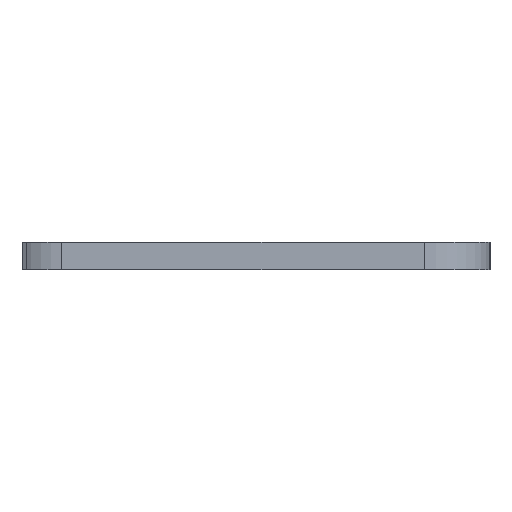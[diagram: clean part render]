
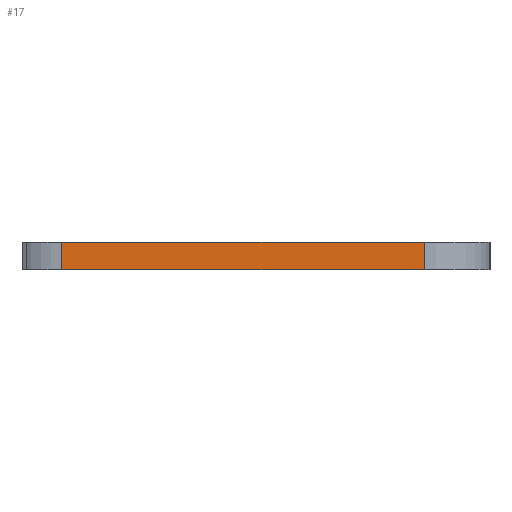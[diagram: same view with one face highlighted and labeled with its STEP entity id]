
A CAD part, left-side view. The second image highlights one B-rep face of the part: STEP entity #17.
In plain terms, the highlighted planar face has unit normal (-1, 0, 0).
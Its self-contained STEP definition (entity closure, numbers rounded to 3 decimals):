
#17 = ADVANCED_FACE('',(#18),#32,.F.);
#18 = FACE_BOUND('',#19,.F.);
#19 = EDGE_LOOP('',(#20,#55,#83,#111));
#20 = ORIENTED_EDGE('',*,*,#21,.F.);
#21 = EDGE_CURVE('',#22,#24,#26,.T.);
#22 = VERTEX_POINT('',#23);
#23 = CARTESIAN_POINT('',(-0.05,5.95,65.7));
#24 = VERTEX_POINT('',#25);
#25 = CARTESIAN_POINT('',(-0.05,39.,65.7));
#26 = SURFACE_CURVE('',#27,(#31,#43),.PCURVE_S1.);
#27 = LINE('',#28,#29);
#28 = CARTESIAN_POINT('',(-0.05,-0.05,65.7));
#29 = VECTOR('',#30,1.);
#30 = DIRECTION('',(0.,1.,0.));
#31 = PCURVE('',#32,#37);
#32 = PLANE('',#33);
#33 = AXIS2_PLACEMENT_3D('',#34,#35,#36);
#34 = CARTESIAN_POINT('',(-0.05,-0.05,63.2));
#35 = DIRECTION('',(1.,0.,0.));
#36 = DIRECTION('',(0.,0.,1.));
#37 = DEFINITIONAL_REPRESENTATION('',(#38),#42);
#38 = LINE('',#39,#40);
#39 = CARTESIAN_POINT('',(2.5,0.));
#40 = VECTOR('',#41,1.);
#41 = DIRECTION('',(0.,-1.));
#42 = ( GEOMETRIC_REPRESENTATION_CONTEXT(2) 
PARAMETRIC_REPRESENTATION_CONTEXT() REPRESENTATION_CONTEXT('2D SPACE',''
  ) );
#43 = PCURVE('',#44,#49);
#44 = PLANE('',#45);
#45 = AXIS2_PLACEMENT_3D('',#46,#47,#48);
#46 = CARTESIAN_POINT('',(-0.05,-0.05,65.7));
#47 = DIRECTION('',(0.,0.,1.));
#48 = DIRECTION('',(1.,0.,0.));
#49 = DEFINITIONAL_REPRESENTATION('',(#50),#54);
#50 = LINE('',#51,#52);
#51 = CARTESIAN_POINT('',(0.,0.));
#52 = VECTOR('',#53,1.);
#53 = DIRECTION('',(0.,1.));
#54 = ( GEOMETRIC_REPRESENTATION_CONTEXT(2) 
PARAMETRIC_REPRESENTATION_CONTEXT() REPRESENTATION_CONTEXT('2D SPACE',''
  ) );
#55 = ORIENTED_EDGE('',*,*,#56,.F.);
#56 = EDGE_CURVE('',#57,#22,#59,.T.);
#57 = VERTEX_POINT('',#58);
#58 = CARTESIAN_POINT('',(-0.05,5.95,63.2));
#59 = SURFACE_CURVE('',#60,(#64,#71),.PCURVE_S1.);
#60 = LINE('',#61,#62);
#61 = CARTESIAN_POINT('',(-0.05,5.95,63.2));
#62 = VECTOR('',#63,1.);
#63 = DIRECTION('',(0.,0.,1.));
#64 = PCURVE('',#32,#65);
#65 = DEFINITIONAL_REPRESENTATION('',(#66),#70);
#66 = LINE('',#67,#68);
#67 = CARTESIAN_POINT('',(0.,-6.));
#68 = VECTOR('',#69,1.);
#69 = DIRECTION('',(1.,0.));
#70 = ( GEOMETRIC_REPRESENTATION_CONTEXT(2) 
PARAMETRIC_REPRESENTATION_CONTEXT() REPRESENTATION_CONTEXT('2D SPACE',''
  ) );
#71 = PCURVE('',#72,#77);
#72 = CYLINDRICAL_SURFACE('',#73,6.);
#73 = AXIS2_PLACEMENT_3D('',#74,#75,#76);
#74 = CARTESIAN_POINT('',(5.95,5.95,63.2));
#75 = DIRECTION('',(0.,0.,1.));
#76 = DIRECTION('',(-1.,-0.,0.));
#77 = DEFINITIONAL_REPRESENTATION('',(#78),#82);
#78 = LINE('',#79,#80);
#79 = CARTESIAN_POINT('',(0.,0.));
#80 = VECTOR('',#81,1.);
#81 = DIRECTION('',(0.,1.));
#82 = ( GEOMETRIC_REPRESENTATION_CONTEXT(2) 
PARAMETRIC_REPRESENTATION_CONTEXT() REPRESENTATION_CONTEXT('2D SPACE',''
  ) );
#83 = ORIENTED_EDGE('',*,*,#84,.T.);
#84 = EDGE_CURVE('',#57,#85,#87,.T.);
#85 = VERTEX_POINT('',#86);
#86 = CARTESIAN_POINT('',(-0.05,39.,63.2));
#87 = SURFACE_CURVE('',#88,(#92,#99),.PCURVE_S1.);
#88 = LINE('',#89,#90);
#89 = CARTESIAN_POINT('',(-0.05,-0.05,63.2));
#90 = VECTOR('',#91,1.);
#91 = DIRECTION('',(0.,1.,0.));
#92 = PCURVE('',#32,#93);
#93 = DEFINITIONAL_REPRESENTATION('',(#94),#98);
#94 = LINE('',#95,#96);
#95 = CARTESIAN_POINT('',(0.,0.));
#96 = VECTOR('',#97,1.);
#97 = DIRECTION('',(0.,-1.));
#98 = ( GEOMETRIC_REPRESENTATION_CONTEXT(2) 
PARAMETRIC_REPRESENTATION_CONTEXT() REPRESENTATION_CONTEXT('2D SPACE',''
  ) );
#99 = PCURVE('',#100,#105);
#100 = PLANE('',#101);
#101 = AXIS2_PLACEMENT_3D('',#102,#103,#104);
#102 = CARTESIAN_POINT('',(-0.05,-0.05,63.2));
#103 = DIRECTION('',(0.,0.,1.));
#104 = DIRECTION('',(1.,0.,0.));
#105 = DEFINITIONAL_REPRESENTATION('',(#106),#110);
#106 = LINE('',#107,#108);
#107 = CARTESIAN_POINT('',(0.,0.));
#108 = VECTOR('',#109,1.);
#109 = DIRECTION('',(0.,1.));
#110 = ( GEOMETRIC_REPRESENTATION_CONTEXT(2) 
PARAMETRIC_REPRESENTATION_CONTEXT() REPRESENTATION_CONTEXT('2D SPACE',''
  ) );
#111 = ORIENTED_EDGE('',*,*,#112,.T.);
#112 = EDGE_CURVE('',#85,#24,#113,.T.);
#113 = SURFACE_CURVE('',#114,(#118,#125),.PCURVE_S1.);
#114 = LINE('',#115,#116);
#115 = CARTESIAN_POINT('',(-0.05,39.,63.2));
#116 = VECTOR('',#117,1.);
#117 = DIRECTION('',(0.,0.,1.));
#118 = PCURVE('',#32,#119);
#119 = DEFINITIONAL_REPRESENTATION('',(#120),#124);
#120 = LINE('',#121,#122);
#121 = CARTESIAN_POINT('',(0.,-39.05));
#122 = VECTOR('',#123,1.);
#123 = DIRECTION('',(1.,0.));
#124 = ( GEOMETRIC_REPRESENTATION_CONTEXT(2) 
PARAMETRIC_REPRESENTATION_CONTEXT() REPRESENTATION_CONTEXT('2D SPACE',''
  ) );
#125 = PCURVE('',#126,#131);
#126 = CYLINDRICAL_SURFACE('',#127,6.);
#127 = AXIS2_PLACEMENT_3D('',#128,#129,#130);
#128 = CARTESIAN_POINT('',(5.95,39.,63.2));
#129 = DIRECTION('',(0.,0.,1.));
#130 = DIRECTION('',(-1.,-0.,0.));
#131 = DEFINITIONAL_REPRESENTATION('',(#132),#136);
#132 = LINE('',#133,#134);
#133 = CARTESIAN_POINT('',(-0.,0.));
#134 = VECTOR('',#135,1.);
#135 = DIRECTION('',(-0.,1.));
#136 = ( GEOMETRIC_REPRESENTATION_CONTEXT(2) 
PARAMETRIC_REPRESENTATION_CONTEXT() REPRESENTATION_CONTEXT('2D SPACE',''
  ) );
